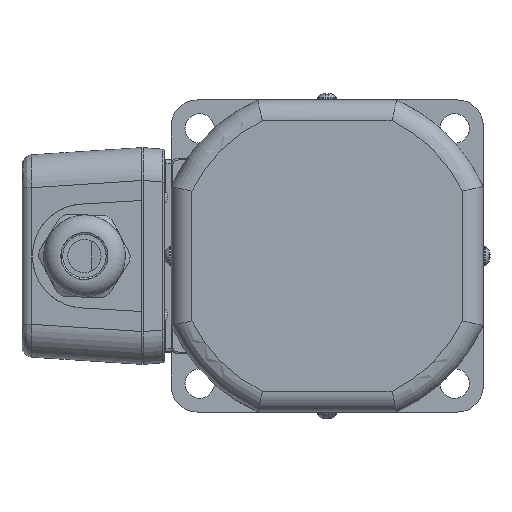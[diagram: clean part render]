
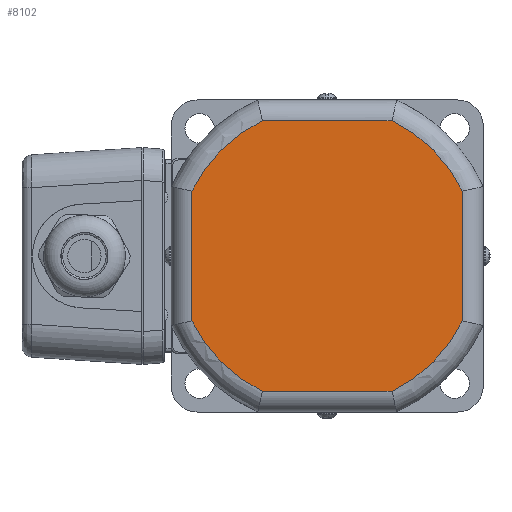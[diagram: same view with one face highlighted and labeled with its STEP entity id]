
A CAD part, left-side view. The second image highlights one B-rep face of the part: STEP entity #8102.
In plain terms, the highlighted planar face has unit normal (-1, 0, 0).
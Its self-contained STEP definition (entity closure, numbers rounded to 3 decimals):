
#790=FACE_OUTER_BOUND('',#1332,.T.);
#1332=EDGE_LOOP('',(#6590,#6591,#6592,#6593,#6594,#6595,#6596,#6597));
#1843=CIRCLE('',#8792,43.25);
#1844=CIRCLE('',#8793,43.25);
#1845=CIRCLE('',#8794,43.25);
#1846=CIRCLE('',#8795,43.25);
#2350=LINE('',#15190,#2924);
#2351=LINE('',#15194,#2925);
#2352=LINE('',#15198,#2926);
#2353=LINE('',#15202,#2927);
#2924=VECTOR('',#10556,37.393);
#2925=VECTOR('',#10559,37.393);
#2926=VECTOR('',#10562,37.393);
#2927=VECTOR('',#10565,37.393);
#3633=VERTEX_POINT('',#15188);
#3634=VERTEX_POINT('',#15189);
#3635=VERTEX_POINT('',#15191);
#3636=VERTEX_POINT('',#15193);
#3637=VERTEX_POINT('',#15195);
#3638=VERTEX_POINT('',#15197);
#3639=VERTEX_POINT('',#15199);
#3640=VERTEX_POINT('',#15201);
#4652=EDGE_CURVE('',#3633,#3634,#2350,.T.);
#4653=EDGE_CURVE('',#3635,#3633,#1843,.T.);
#4654=EDGE_CURVE('',#3636,#3635,#2351,.T.);
#4655=EDGE_CURVE('',#3637,#3636,#1844,.T.);
#4656=EDGE_CURVE('',#3638,#3637,#2352,.T.);
#4657=EDGE_CURVE('',#3639,#3638,#1845,.T.);
#4658=EDGE_CURVE('',#3640,#3639,#2353,.T.);
#4659=EDGE_CURVE('',#3634,#3640,#1846,.T.);
#6590=ORIENTED_EDGE('',*,*,#4652,.F.);
#6591=ORIENTED_EDGE('',*,*,#4653,.F.);
#6592=ORIENTED_EDGE('',*,*,#4654,.F.);
#6593=ORIENTED_EDGE('',*,*,#4655,.F.);
#6594=ORIENTED_EDGE('',*,*,#4656,.F.);
#6595=ORIENTED_EDGE('',*,*,#4657,.F.);
#6596=ORIENTED_EDGE('',*,*,#4658,.F.);
#6597=ORIENTED_EDGE('',*,*,#4659,.F.);
#7238=PLANE('',#8791);
#8102=ADVANCED_FACE('',(#790),#7238,.F.);
#8791=AXIS2_PLACEMENT_3D('',#15187,#10554,#10555);
#8792=AXIS2_PLACEMENT_3D('',#15192,#10557,#10558);
#8793=AXIS2_PLACEMENT_3D('',#15196,#10560,#10561);
#8794=AXIS2_PLACEMENT_3D('',#15200,#10563,#10564);
#8795=AXIS2_PLACEMENT_3D('',#15203,#10566,#10567);
#10554=DIRECTION('center_axis',(1.,0.,0.));
#10555=DIRECTION('ref_axis',(0.,1.,0.));
#10556=DIRECTION('',(0.,-1.,0.));
#10557=DIRECTION('center_axis',(1.,0.,0.));
#10558=DIRECTION('ref_axis',(0.,0.707,0.707));
#10559=DIRECTION('',(0.,0.,1.));
#10560=DIRECTION('center_axis',(1.,0.,0.));
#10561=DIRECTION('ref_axis',(0.,0.707,-0.707));
#10562=DIRECTION('',(0.,1.,0.));
#10563=DIRECTION('center_axis',(1.,0.,0.));
#10564=DIRECTION('ref_axis',(0.,-0.707,-0.707));
#10565=DIRECTION('',(0.,0.,-1.));
#10566=DIRECTION('center_axis',(1.,0.,0.));
#10567=DIRECTION('ref_axis',(0.,-0.707,0.707));
#15187=CARTESIAN_POINT('Origin',(-17.8,0.,
0.));
#15188=CARTESIAN_POINT('',(-17.8,18.697,39.));
#15189=CARTESIAN_POINT('',(-17.8,-18.697,39.));
#15190=CARTESIAN_POINT('',(-17.8,18.697,39.));
#15191=CARTESIAN_POINT('',(-17.8,39.,18.697));
#15192=CARTESIAN_POINT('Origin',(-17.8,0.,
0.));
#15193=CARTESIAN_POINT('',(-17.8,39.,-18.697));
#15194=CARTESIAN_POINT('',(-17.8,39.,-18.697));
#15195=CARTESIAN_POINT('',(-17.8,18.697,-39.));
#15196=CARTESIAN_POINT('Origin',(-17.8,0.,
0.));
#15197=CARTESIAN_POINT('',(-17.8,-18.697,-39.));
#15198=CARTESIAN_POINT('',(-17.8,-18.697,-39.));
#15199=CARTESIAN_POINT('',(-17.8,-39.,-18.697));
#15200=CARTESIAN_POINT('Origin',(-17.8,0.,
0.));
#15201=CARTESIAN_POINT('',(-17.8,-39.,18.697));
#15202=CARTESIAN_POINT('',(-17.8,-39.,18.697));
#15203=CARTESIAN_POINT('Origin',(-17.8,0.,
0.));
